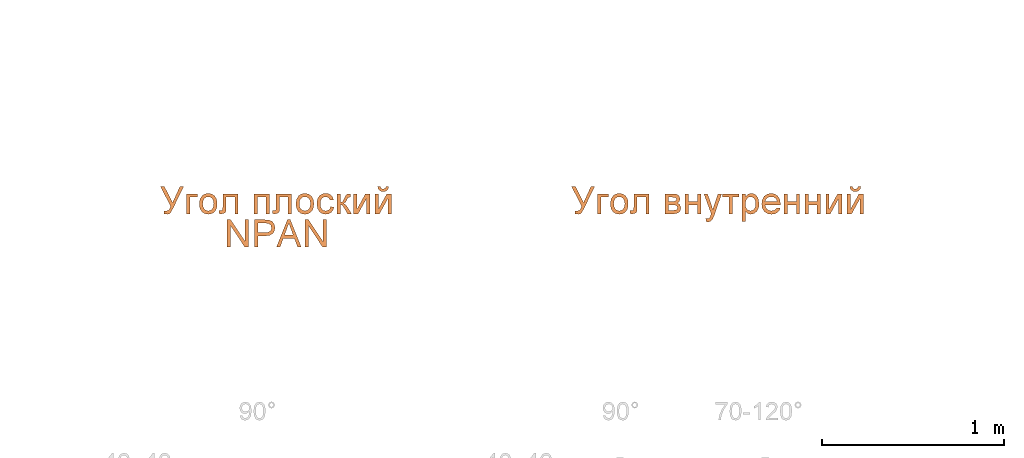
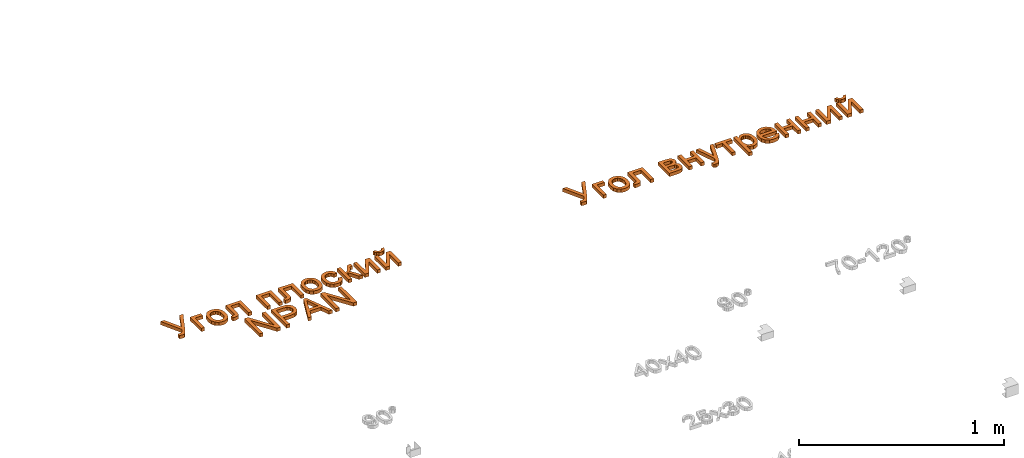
# One storey, part 29 of 71: 2 proxies.
"""IFC2X3 building model written with IfcOpenShell, lengths in millimetres."""

from ifc_helpers import new_model, entity, si_unit, converted_unit, derived_unit, direction, frame, origin, place, context, subcontext, project, spatial, polyline, outline, extrude, element, save


model = new_model("IFC2X3")

# Units and contexts
model_context = context("Model", 3, precision=0.01, world=origin(), true_north=direction((6.12303176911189e-17, 1.0)))
body_context = subcontext(model_context, "Body", "Model", "MODEL_VIEW")
ifc_project = project(units=[si_unit("LENGTHUNIT", "METRE", prefix="MILLI"), si_unit("AREAUNIT", "SQUARE_METRE"), si_unit("VOLUMEUNIT", "CUBIC_METRE"), converted_unit("PLANEANGLEUNIT", "DEGREE", entity("IfcRatioMeasure", 0.0174532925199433), si_unit("PLANEANGLEUNIT", "RADIAN"), dimensions=[0, 0, 0, 0, 0, 0, 0]), si_unit("MASSUNIT", "GRAM", prefix="KILO"), derived_unit("MASSDENSITYUNIT", [(si_unit("MASSUNIT", "GRAM", prefix="KILO"), 1), (si_unit("LENGTHUNIT", "METRE"), -3)]), si_unit("TIMEUNIT", "SECOND"), si_unit("FREQUENCYUNIT", "HERTZ"), si_unit("THERMODYNAMICTEMPERATUREUNIT", "DEGREE_CELSIUS"), derived_unit("THERMALTRANSMITTANCEUNIT", [(si_unit("MASSUNIT", "GRAM", prefix="KILO"), 1), (si_unit("THERMODYNAMICTEMPERATUREUNIT", "KELVIN"), -1), (si_unit("TIMEUNIT", "SECOND"), -3)]), derived_unit("VOLUMETRICFLOWRATEUNIT", [(si_unit("LENGTHUNIT", "METRE"), 3), (si_unit("TIMEUNIT", "SECOND"), -1)]), si_unit("ELECTRICCURRENTUNIT", "AMPERE"), si_unit("ELECTRICVOLTAGEUNIT", "VOLT"), si_unit("POWERUNIT", "WATT"), si_unit("FORCEUNIT", "NEWTON", prefix="KILO"), si_unit("ILLUMINANCEUNIT", "LUX"), si_unit("LUMINOUSFLUXUNIT", "LUMEN"), si_unit("LUMINOUSINTENSITYUNIT", "CANDELA"), derived_unit("USERDEFINED", [(si_unit("MASSUNIT", "GRAM", prefix="KILO"), -1), (si_unit("LENGTHUNIT", "METRE"), -2), (si_unit("TIMEUNIT", "SECOND"), 3), (si_unit("LUMINOUSFLUXUNIT", "LUMEN"), 1)]), derived_unit("LINEARVELOCITYUNIT", [(si_unit("LENGTHUNIT", "METRE"), 1), (si_unit("TIMEUNIT", "SECOND"), -1)]), si_unit("PRESSUREUNIT", "PASCAL"), derived_unit("USERDEFINED", [(si_unit("LENGTHUNIT", "METRE"), -2), (si_unit("MASSUNIT", "GRAM", prefix="KILO"), 1), (si_unit("TIMEUNIT", "SECOND"), -2)])], contexts=[model_context])

# Site, building, storey
site_placement = place(None, origin())
site = spatial("IfcSite", under=ifc_project, at=site_placement, Name="Default", CompositionType="ELEMENT")
building_placement = place(site_placement, origin())
building = spatial("IfcBuilding", under=site, at=building_placement, Name="Наименование здания", CompositionType="ELEMENT")
storey_placement = place(building_placement, origin())
storey = spatial("IfcBuildingStorey", under=building, at=storey_placement, Name="Этаж 01", CompositionType="ELEMENT", Elevation=0.0)

# Proxies
proxy_1_placement = place(storey_placement, origin())
element("IfcBuildingElementProxy", 1, at=proxy_1_placement, inside=storey, Name="Текст модели:150 мм Arial", ObjectType="Текст модели:150 мм Arial", context=body_context, shape_type="SweptSolid", body=[
    extrude(outline(polyline([(-106.701123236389, 2.54904117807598), (-97.296241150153, -16.0692907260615), (2.68445330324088, -16.0537927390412), (-58.6980742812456, -92.4799756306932), (-49.3761276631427, -110.934124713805), (29.6124181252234, -6.94385161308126), (48.3399438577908, 19.9502964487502), (49.5661580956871, 28.8436959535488), (46.5690129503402, 38.5506036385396), (36.8208226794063, 52.6266857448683), (22.1100419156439, 45.1956678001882), (28.7946406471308, 31.9625324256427), (30.0108133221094, 20.2534710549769), (17.5632614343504, 2.54904117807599), (-106.701123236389, 2.54904117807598)])), frame((13320.9251481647, 4510.19222980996, 0.0), z_axis=(0.0, 0.0, -1.0), x_axis=(0.450880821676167, -0.892584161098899, 0.0)), (0.0, 0.0, -1.0), 20.0),
    extrude(outline(polyline([(-43.1648207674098, -26.6837073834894), (67.4940833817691, -26.6837073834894), (67.4940833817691, -7.84814923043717), (-24.3292626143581, -7.84814923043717), (-24.3292626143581, 34.5318566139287), (-43.1648207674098, 34.5318566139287), (-43.1648207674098, -26.6837073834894)])), frame((13439.6680401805, 4521.09226675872, 0.0), z_axis=(0.0, 0.0, 1.0), x_axis=(0.0, -1.0, 0.0)), (0.0, 0.0, 1.0), 20.0),
    extrude(outline(polyline([(-11.1946000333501, -52.242644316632), (13.7256178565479, -52.242644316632), (33.0962748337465, -44.5759588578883), (46.3022849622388, -30.4665992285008), (52.7285623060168, -11.1385767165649), (52.8795704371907, 2.26160042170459), (49.5396030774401, 15.0586597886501), (42.9102470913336, 26.361219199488), (33.1930893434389, 35.2778964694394), (19.472491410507, 41.8007990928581), (0.83281486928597, 45.9220345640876), (-22.8762356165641, 45.7172545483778), (-41.8930612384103, 37.8901775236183), (-55.142589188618, 23.7682718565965), (-61.5497466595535, 4.67900591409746), (-60.9951142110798, -13.6515433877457), (-53.9645370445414, -29.8701936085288), (-37.0646721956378, -44.5487589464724), (-11.1946000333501, -52.242644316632)]), holes=[polyline([(-8.64857835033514, -33.5799173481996), (-25.22636855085, -29.0848574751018), (-36.3325046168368, -20.946182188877), (-42.1575488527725, -10.2052592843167), (-42.8920635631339, 2.09654344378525), (-38.8516378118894, 13.6120893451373), (-30.3014219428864, 22.3586496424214), (-17.5331679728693, 27.234584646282), (-0.838627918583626, 27.1382546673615), (16.1172354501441, 22.5908646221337), (27.4101305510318, 14.4263394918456), (33.3060231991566, 3.69417972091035), (34.0708792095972, -8.55611424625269), (30.0134303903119, -20.1946478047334), (21.4625840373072, -28.9457632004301), (8.53602088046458, -33.7580048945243), (-8.64857835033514, -33.5799173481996)])]), frame((13536.9018062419, 4505.00151704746, 0.0), z_axis=(0.0, 0.0, 1.0), x_axis=(0.137105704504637, -0.990556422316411, 0.0)), (0.0, 0.0, 1.0), 20.0),
    extrude(outline(polyline([(-74.0534959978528, 18.817164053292), (-74.0534959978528, -65.942847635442), (36.495043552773, -65.942847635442), (36.495043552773, -47.1072894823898), (-55.2179378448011, -47.1072894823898), (-55.2179378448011, -0.0183940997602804), (-2.42687153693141, -0.0183940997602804), (21.9269165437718, 1.25079878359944), (32.2092183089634, 8.22216259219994), (36.6054081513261, 24.7032759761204), (35.6489149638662, 40.0071669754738), (17.7698499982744, 40.0071669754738), (17.7698499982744, 31.582669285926), (16.6110217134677, 23.0662010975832), (12.9322017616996, 19.6632926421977), (-3.49372932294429, 18.817164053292), (-74.0534959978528, 18.817164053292)])), frame((13631.9293022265, 4490.20359152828, 0.0), z_axis=(0.0, 0.0, -1.0), x_axis=(0.0, -1.0, 0.0)), (0.0, 0.0, -1.0), 20.0),
    extrude(outline(polyline([(-60.0383416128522, -42.3800058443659), (50.6205625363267, -42.3800058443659), (50.6205625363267, -23.5444476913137), (-41.2027834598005, -23.5444476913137), (-41.2027834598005, 23.5444476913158), (50.6205625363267, 23.5444476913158), (50.6205625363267, 42.3800058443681), (-60.0383416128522, 42.3800058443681), (-60.0383416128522, -42.3800058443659)])), frame((13827.3666121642, 4504.21874591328, 0.0), z_axis=(0.0, 0.0, 1.0), x_axis=(0.0, -1.0, 0.0)), (0.0, 0.0, 1.0), 20.0),
    extrude(outline(polyline([(-74.0534959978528, 18.8171640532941), (-74.0534959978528, -65.9428476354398), (36.495043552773, -65.9428476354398), (36.495043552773, -47.1072894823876), (-55.2179378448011, -47.1072894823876), (-55.2179378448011, -0.0183940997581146), (-2.42687153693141, -0.0183940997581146), (21.9269165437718, 1.25079878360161), (32.2092183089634, 8.2221625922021), (36.6054081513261, 24.7032759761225), (35.6489149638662, 40.007166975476), (17.7698499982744, 40.007166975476), (17.7698499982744, 31.5826692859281), (16.6110217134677, 23.0662010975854), (12.9322017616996, 19.6632926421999), (-3.49372932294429, 18.8171640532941), (-74.0534959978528, 18.8171640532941)])), frame((13926.234898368, 4490.20359152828, 0.0), z_axis=(0.0, 0.0, -1.0), x_axis=(0.0, -1.0, 0.0)), (0.0, 0.0, -1.0), 20.0),
    extrude(outline(polyline([(-11.1946000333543, -52.2426443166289), (13.725617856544, -52.2426443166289), (33.096274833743, -44.575958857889), (46.3022849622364, -30.4665992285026), (52.7285623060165, -11.1385767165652), (52.8795704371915, 2.26160042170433), (49.5396030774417, 15.058659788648), (42.9102470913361, 26.3612191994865), (33.1930893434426, 35.2778964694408), (19.4724914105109, 41.8007990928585), (0.832814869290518, 45.9220345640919), (-22.8762356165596, 45.7172545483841), (-41.8930612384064, 37.8901775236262), (-55.1425891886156, 23.7682718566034), (-61.5497466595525, 4.67900591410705), (-60.9951142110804, -13.6515433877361), (-53.9645370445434, -29.8701936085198), (-37.0646721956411, -44.5487589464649), (-11.1946000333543, -52.2426443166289)]), holes=[polyline([(-8.64857835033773, -33.5799173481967), (-25.2263685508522, -29.0848574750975), (-36.3325046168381, -20.9461821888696), (-42.1575488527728, -10.2052592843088), (-42.8920635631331, 2.09654344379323), (-38.851637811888, 13.6120893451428), (-30.3014219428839, 22.3586496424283), (-17.5331679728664, 27.2345846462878), (-0.838627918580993, 27.1382546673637), (16.1172354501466, 22.5908646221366), (27.4101305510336, 14.4263394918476), (33.3060231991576, 3.69417972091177), (34.0708792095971, -8.55611424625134), (30.0134303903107, -20.1946478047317), (21.4625840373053, -28.9457632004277), (8.53602088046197, -33.7580048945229), (-8.64857835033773, -33.5799173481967)])]), frame((14069.0063240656, 4505.00151704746, 0.0), z_axis=(0.0, 0.0, 1.0), x_axis=(0.137105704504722, -0.990556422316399, 0.0)), (0.0, 0.0, 1.0), 20.0),
    extrude(outline(polyline([(6.7721843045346, -32.6880162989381), (3.47919135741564, -51.3823432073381), (21.0352248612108, -51.2935104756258), (36.0385414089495, -45.5877688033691), (47.6356474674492, -34.9742466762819), (54.9730495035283, -20.1620725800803), (57.3315572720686, 0.0758389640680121), (51.3286597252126, 18.3174486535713), (37.081059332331, 33.285426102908), (14.7054585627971, 43.7024409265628), (-1.7374678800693, 47.2596707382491), (-16.8916566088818, 47.4079950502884), (-30.2412319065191, 43.9163864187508), (-41.2703180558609, 36.5538173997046), (-49.6896409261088, 26.2753303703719), (-55.2099263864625, 14.0359677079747), (-57.6963038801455, -1.85137033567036), (-54.8486013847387, -16.0419747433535), (-46.8993177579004, -28.0408309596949), (-34.0809518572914, -37.3529244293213), (-26.2876013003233, -20.0443904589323), (-37.1997991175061, -7.54215198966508), (-37.2518019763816, 8.35215978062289), (-31.4457718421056, 19.3006318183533), (-21.9310317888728, 26.4799459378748), (-8.59621128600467, 28.9704724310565), (8.67006019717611, 25.8525815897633), (24.9370752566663, 18.6926998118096), (34.6412636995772, 9.25213062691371), (38.4812527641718, -1.85665774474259), (37.1556696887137, -14.0211970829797), (32.9052994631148, -22.9177981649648), (26.4119100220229, -29.28567407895), (17.6945290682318, -32.6880162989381), (6.7721843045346, -32.6880162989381)])), frame((14177.1847898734, 4509.71587672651, 0.0), z_axis=(0.0, 0.0, -1.0), x_axis=(-0.294292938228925, -0.955715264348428, 0.0)), (0.0, 0.0, -1.0), 20.0),
    extrude(outline(polyline([(-45.4943568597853, -44.3029556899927), (65.1645472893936, -44.3029556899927), (65.1645472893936, -25.4673975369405), (13.3667623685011, -25.4673975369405), (16.8432472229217, -15.3506426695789), (31.2090391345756, -5.41782879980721), (65.1645472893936, 14.3374343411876), (65.1645472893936, 35.7481664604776), (30.4732751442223, 15.5882331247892), (15.0314283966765, 3.9263738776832), (7.70137964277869, -7.95621456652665), (1.13468602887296, 2.69396919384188), (-12.2746126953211, 10.2907323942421), (-24.6722359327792, 16.765455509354), (-26.6587987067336, 25.962505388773), (-26.5484341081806, 31.0392769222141), (-45.4943568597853, 31.0392769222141), (-45.4943568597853, 27.4340333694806), (-44.059617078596, 13.6568526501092), (-38.5229930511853, 6.07848354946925), (-21.5084507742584, -2.51156103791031), (-1.78997583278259, -12.8490451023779), (1.59453852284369, -25.4673975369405), (-45.4943568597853, -25.4673975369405), (-45.4943568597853, -44.3029556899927)])), frame((14286.0518472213, 4518.76273066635, 0.0), z_axis=(0.0, 0.0, 1.0), x_axis=(0.0, -1.0, 0.0)), (0.0, 0.0, 1.0), 20.0),
    extrude(outline(polyline([(-55.3809555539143, -44.7638811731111), (55.2779485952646, -44.7638811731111), (55.2779485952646, -20.1157874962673), (-28.5991463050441, 25.8694619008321), (55.2779485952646, 25.8694619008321), (55.2779485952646, 44.7050200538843), (-55.3809555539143, 44.7050200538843), (-55.3809555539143, 20.3512319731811), (29.0111741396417, -25.9283230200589), (-55.3809555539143, -25.9283230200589), (-55.3809555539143, -44.7638811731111)])), frame((14378.3361187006, 4508.87613197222, 0.0), z_axis=(0.0, 0.0, 1.0), x_axis=(0.0, -1.0, 0.0)), (0.0, 0.0, 1.0), 20.0),
    extrude(outline(polyline([(-18.9086812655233, -8.80638330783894), (-25.1654169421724, -21.4719280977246), (-13.0047964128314, -24.0889504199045), (-2.33253524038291, -22.5548007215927), (6.5147739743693, -17.0109446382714), (13.200538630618, -7.59884780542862), (17.0548336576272, 4.29420862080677), (16.4301190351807, 15.3019521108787), (11.3772556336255, 25.1120324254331), (1.94710432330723, 33.4120993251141), (-4.30963135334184, 20.7465545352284), (2.85974295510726, 11.2962766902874), (1.2844986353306, 0.175114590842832), (-6.94780563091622, -8.80638330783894), (-18.9086812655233, -8.80638330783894)])), frame((14496.2398018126, 4591.23006402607, 0.0), z_axis=(0.0, 0.0, -1.0), x_axis=(-0.442902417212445, -0.896569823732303, 0.0)), (0.0, 0.0, -1.0), 20.0),
    extrude(outline(polyline([(-55.3809555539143, -44.7638811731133), (55.2779485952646, -44.7638811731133), (55.2779485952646, -20.1157874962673), (-28.5991463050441, 25.8694619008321), (55.2779485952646, 25.8694619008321), (55.2779485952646, 44.7050200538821), (-55.3809555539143, 44.7050200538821), (-55.3809555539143, 20.3512319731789), (29.0111741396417, -25.9283230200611), (-55.3809555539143, -25.9283230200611), (-55.3809555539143, -44.7638811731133)])), frame((14496.0583571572, 4508.87613197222, 0.0), z_axis=(0.0, 0.0, 1.0), x_axis=(0.0, -1.0, 0.0)), (0.0, 0.0, 1.0), 20.0),
    extrude(outline(polyline([(-58.8611192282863, -75.3459114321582), (-40.0255610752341, -75.3459114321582), (-40.0255610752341, 44.0685842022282), (38.7011858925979, -75.3459114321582), (58.8611192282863, -75.3459114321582), (58.8611192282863, 75.3385537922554), (40.0255610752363, 75.3385537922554), (40.0255610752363, -44.0391536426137), (-38.7011858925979, 75.3385537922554), (-58.8611192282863, 75.3385537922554), (-58.8611192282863, -75.3459114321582)])), frame((13695.5177050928, 4345.98186804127, 0.0)), (0.0, 0.0, 1.0), 20.0),
    extrude(outline(polyline([(-64.7670401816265, -90.6454161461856), (-45.9314820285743, -90.6454161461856), (-45.9314820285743, -29.4298521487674), (-7.63496633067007, -29.4298521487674), (19.1238502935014, -26.1005200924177), (36.1245969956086, -16.1125239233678), (45.2158808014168, -1.31447066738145), (48.2463087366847, 16.4450326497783), (43.7581483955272, 36.9912420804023), (31.8939540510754, 51.559369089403), (13.5918247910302, 58.6043092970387), (-8.92255331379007, 60.039049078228), (-64.7670401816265, 60.039049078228), (-64.7670401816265, -90.6454161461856)]), holes=[polyline([(-45.9314820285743, -10.5942939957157), (-45.9314820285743, 41.2034909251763), (-6.97277873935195, 41.2034909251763), (11.8627794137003, 39.9159039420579), (24.5731023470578, 31.3810416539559), (29.4107505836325, 15.7828450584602), (27.3598084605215, 4.64521765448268), (21.2069820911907, -3.6781124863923), (10.1705222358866, -8.86524861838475), (-6.53132034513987, -10.5942939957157), (-45.9314820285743, -10.5942939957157)])]), frame((13852.1080912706, 4361.2813727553, 0.0)), (0.0, 0.0, 1.0), 20.0),
    extrude(outline(polyline([(-68.1639351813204, -49.4433401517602), (-48.2615192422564, -49.4433401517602), (-31.0446418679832, -2.35444476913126), (31.0170507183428, -2.35444476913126), (48.2707162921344, -49.4433401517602), (68.1731322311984, -49.4433401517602), (8.02442601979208, 101.241125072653), (-8.01522896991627, 101.241125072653), (-68.1639351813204, -49.4433401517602)]), holes=[polyline([(-24.1284603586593, 16.4811133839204), (-9.37639235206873, 56.7641918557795), (0.00459852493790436, 82.4055669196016), (10.5628117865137, 53.5268302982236), (24.1376574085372, 16.4811133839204), (-24.1284603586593, 16.4811133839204)])]), frame((13976.8692564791, 4320.07929676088, 0.0)), (0.0, 0.0, 1.0), 20.0),
    extrude(outline(polyline([(-58.8611192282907, -75.3459114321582), (-40.0255610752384, -75.3459114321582), (-40.0255610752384, 44.0685842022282), (38.7011858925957, -75.3459114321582), (58.8611192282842, -75.3459114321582), (58.8611192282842, 75.3385537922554), (40.0255610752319, 75.3385537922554), (40.0255610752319, -44.0391536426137), (-38.7011858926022, 75.3385537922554), (-58.8611192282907, 75.3385537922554), (-58.8611192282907, -75.3459114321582)])), frame((14124.0266530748, 4345.98186804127, 0.0)), (0.0, 0.0, 1.0), 20.0),
])
proxy_2_placement = place(storey_placement, origin())
element("IfcBuildingElementProxy", 2, at=proxy_2_placement, inside=storey, Name="Текст модели:150 мм Arial", ObjectType="Текст модели:150 мм Arial", context=body_context, shape_type="SweptSolid", body=[
    extrude(outline(polyline([(-106.70112323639, 2.54904117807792), (-97.2962411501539, -16.0692907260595), (2.6844533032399, -16.0537927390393), (-58.6980742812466, -92.4799756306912), (-49.3761276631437, -110.934124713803), (29.6124181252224, -6.94385161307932), (48.3399438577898, 19.9502964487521), (49.5661580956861, 28.8436959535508), (46.5690129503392, 38.5506036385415), (36.8208226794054, 52.6266857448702), (22.1100419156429, 45.1956678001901), (28.7946406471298, 31.9625324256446), (30.0108133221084, 20.2534710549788), (17.5632614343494, 2.54904117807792), (-106.70112323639, 2.54904117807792)])), frame((15584.0652375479, 4510.19222980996, 0.0), z_axis=(0.0, 0.0, -1.0), x_axis=(0.450880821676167, -0.892584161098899, 0.0)), (0.0, 0.0, -1.0), 20.0),
    extrude(outline(polyline([(-43.1648207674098, -26.6837073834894), (67.4940833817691, -26.6837073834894), (67.4940833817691, -7.84814923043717), (-24.3292626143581, -7.84814923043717), (-24.3292626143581, 34.5318566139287), (-43.1648207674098, 34.5318566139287), (-43.1648207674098, -26.6837073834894)])), frame((15702.8081295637, 4521.09226675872, 0.0), z_axis=(0.0, 0.0, 1.0), x_axis=(0.0, -1.0, 0.0)), (0.0, 0.0, 1.0), 20.0),
    extrude(outline(polyline([(-11.1946000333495, -52.2426443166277), (13.7256178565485, -52.2426443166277), (33.0962748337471, -44.575958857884), (46.3022849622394, -30.4665992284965), (52.7285623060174, -11.1385767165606), (52.8795704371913, 2.26160042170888), (49.5396030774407, 15.0586597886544), (42.9102470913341, 26.3612191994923), (33.1930893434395, 35.2778964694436), (19.4724914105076, 41.8007990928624), (0.832814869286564, 45.9220345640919), (-22.8762356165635, 45.7172545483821), (-41.8930612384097, 37.8901775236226), (-55.1425891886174, 23.7682718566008), (-61.5497466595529, 4.67900591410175), (-60.9951142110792, -13.6515433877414), (-53.9645370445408, -29.8701936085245), (-37.0646721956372, -44.5487589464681), (-11.1946000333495, -52.2426443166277)]), holes=[polyline([(-8.64857835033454, -33.5799173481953), (-25.2263685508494, -29.0848574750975), (-36.3325046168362, -20.9461821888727), (-42.1575488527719, -10.2052592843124), (-42.8920635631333, 2.09654344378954), (-38.8516378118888, 13.6120893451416), (-30.3014219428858, 22.3586496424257), (-17.5331679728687, 27.2345846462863), (-0.838627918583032, 27.1382546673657), (16.1172354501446, 22.590864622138), (27.4101305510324, 14.4263394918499), (33.3060231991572, 3.69417972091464), (34.0708792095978, -8.5561142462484), (30.0134303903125, -20.1946478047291), (21.4625840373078, -28.9457632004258), (8.53602088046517, -33.75800489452), (-8.64857835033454, -33.5799173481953)])]), frame((15800.041895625, 4505.00151704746, 0.0), z_axis=(0.0, 0.0, 1.0), x_axis=(0.137105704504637, -0.990556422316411, 0.0)), (0.0, 0.0, 1.0), 20.0),
    extrude(outline(polyline([(-74.0534959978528, 18.8171640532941), (-74.0534959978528, -65.9428476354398), (36.495043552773, -65.9428476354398), (36.495043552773, -47.1072894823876), (-55.2179378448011, -47.1072894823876), (-55.2179378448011, -0.0183940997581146), (-2.42687153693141, -0.0183940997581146), (21.9269165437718, 1.25079878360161), (32.2092183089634, 8.2221625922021), (36.6054081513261, 24.7032759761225), (35.6489149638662, 40.007166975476), (17.7698499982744, 40.007166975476), (17.7698499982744, 31.5826692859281), (16.6110217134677, 23.0662010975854), (12.9322017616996, 19.6632926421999), (-3.49372932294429, 18.8171640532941), (-74.0534959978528, 18.8171640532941)])), frame((15895.0693916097, 4490.20359152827, 0.0), z_axis=(0.0, 0.0, -1.0), x_axis=(0.0, -1.0, 0.0)), (0.0, 0.0, -1.0), 20.0),
    extrude(outline(polyline([(-56.9428773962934, -61.1019147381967), (53.7160267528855, -61.1019147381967), (53.7160267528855, -13.2404671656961), (51.7202669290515, 3.22225211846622), (45.7329874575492, 15.2335992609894), (35.6254296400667, 22.8211654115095), (21.2688347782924, 26.012541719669), (3.51852851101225, 20.9725583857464), (-6.69019685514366, 8.31741775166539), (-16.0160054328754, 18.0662906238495), (-29.0942103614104, 21.3036521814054), (-45.1890476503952, 15.950969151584), (-54.4228857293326, 3.1486757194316), (-56.9428773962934, -19.6048256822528), (-56.9428773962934, -61.1019147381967)]), holes=[polyline([(-14.562871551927, -42.2663565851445), (-38.1073192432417, -42.2663565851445), (-38.1073192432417, -23.0629164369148), (-35.4953570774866, -3.30765329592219), (-31.8809164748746, 1.02415719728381), (-26.2615189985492, 2.4680940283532), (-19.3453374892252, -0.82444982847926), (-15.5193647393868, -8.29245433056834), (-14.562871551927, -23.6515276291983), (-14.562871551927, -42.2663565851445)]), polyline([(34.8804685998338, -42.2663565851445), (4.27268660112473, -42.2663565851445), (4.27268660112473, -21.0027772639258), (5.37633258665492, -4.4296933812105), (10.6554392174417, 3.95801610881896), (19.7237303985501, 7.1769835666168), (26.8376484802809, 5.56749983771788), (31.4775601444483, 1.32765984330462), (34.8804685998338, -19.1633672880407), (34.8804685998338, -42.2663565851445)])]), frame((16109.2286104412, 4507.31421012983, 0.0), z_axis=(0.0, 0.0, 1.0), x_axis=(0.0, -1.0, 0.0)), (0.0, 0.0, 1.0), 20.0),
    extrude(outline(polyline([(-54.1522296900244, -43.5572282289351), (56.5066744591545, -43.5572282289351), (56.5066744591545, -24.7216700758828), (7.06333430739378, -24.7216700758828), (7.06333430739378, 24.7216700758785), (56.5066744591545, 24.7216700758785), (56.5066744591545, 43.5572282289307), (-54.1522296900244, 43.5572282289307), (-54.1522296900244, 24.7216700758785), (-11.7722238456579, 24.7216700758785), (-11.7722238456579, -24.7216700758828), (-54.1522296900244, -24.7216700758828), (-54.1522296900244, -43.5572282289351)])), frame((16202.3428280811, 4510.1048578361, 0.0), z_axis=(0.0, 0.0, 1.0), x_axis=(0.0, -1.0, 0.0)), (0.0, 0.0, 1.0), 20.0),
    extrude(outline(polyline([(-14.0627784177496, -63.6897846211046), (-2.30982667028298, -63.6897846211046), (11.2235996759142, -56.6043892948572), (19.2677475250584, -41.4042581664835), (24.1483344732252, -15.323333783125), (39.1861017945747, 103.40353040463), (19.8673420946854, 99.4533686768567), (11.3764058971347, 32.0809099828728), (8.47999679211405, 9.33454668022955), (-3.68750084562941, 31.9296007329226), (-36.7914083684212, 87.8681928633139), (-56.2543379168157, 83.8885523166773), (5.04686591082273, -16.1124679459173), (4.51901081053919, -20.8765214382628), (2.25144479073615, -35.4962883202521), (-1.95815357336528, -42.2710621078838), (-10.3000835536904, -46.0982994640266), (-20.0027604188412, -46.3925118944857), (-14.0627784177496, -63.6897846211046)])), frame((16300.689948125, 4470.79973233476, 0.0), z_axis=(0.0, 0.0, 1.0), x_axis=(0.979728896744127, -0.200327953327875, 0.0)), (0.0, 0.0, 1.0), 20.0),
    extrude(outline(polyline([(-37.0825051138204, -44.7344506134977), (-18.2469469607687, -44.7344506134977), (-18.2469469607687, -9.41777907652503), (73.5763990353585, -9.41777907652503), (73.5763990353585, 9.41777907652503), (-18.2469469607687, 9.41777907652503), (-18.2469469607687, 44.7344506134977), (-37.0825051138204, 44.7344506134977), (-37.0825051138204, -44.7344506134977)])), frame((16410.7111901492, 4527.17458241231, 0.0), z_axis=(0.0, 0.0, 1.0), x_axis=(0.0, -1.0, 0.0)), (0.0, 0.0, 1.0), 20.0),
    extrude(outline(polyline([(-51.3898957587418, -92.5503727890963), (-32.5543376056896, -92.5503727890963), (-32.5543376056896, -35.4550871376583), (-20.6165668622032, -47.6871634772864), (-4.22742397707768, -52.5248117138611), (7.98165973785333, -50.7175914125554), (19.5929352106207, -45.2959305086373), (29.5625372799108, -36.4851567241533), (36.8466007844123, -24.5105977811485), (41.3025714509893, -10.1034191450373), (42.7878950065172, 6.00521371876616), (37.5271824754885, 35.0311031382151), (30.9972770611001, 46.7849328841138), (21.9289858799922, 55.5589184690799), (10.7913584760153, 61.0219660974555), (-1.9465556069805, 62.8429819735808), (-19.5313149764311, 57.6374517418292), (-32.5543376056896, 42.0208610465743), (-32.5543376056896, 60.488537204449), (-51.3898957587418, 60.488537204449), (-51.3898957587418, -92.5503727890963)]), holes=[polyline([(-32.5543376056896, 4.27616834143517), (-30.3792353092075, 21.3596884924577), (-23.8539284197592, 33.8354866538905), (-14.5051272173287, 41.4644395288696), (-3.85954198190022, 44.0074238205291), (6.74465652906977, 41.61619085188), (15.7485683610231, 34.4424919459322), (21.901394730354, 22.4679330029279), (23.952336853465, 5.6741199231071), (21.8508109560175, -11.8462600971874), (15.5462332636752, -24.0875334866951), (6.29859960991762, -31.2888235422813), (-4.63209417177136, -33.6892535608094), (-15.3880440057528, -31.371596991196), (-24.4057514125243, -24.4186272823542), (-30.5171910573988, -12.6096152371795), (-32.5543376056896, 4.27616834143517)])]), frame((16523.3166499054, 4503.76855032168, 0.0)), (0.0, 0.0, 1.0), 20.0),
    extrude(outline(polyline([(-12.1519235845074, -30.5627594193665), (-23.3028322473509, -45.471002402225), (-8.67600558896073, -50.3662606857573), (6.18277634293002, -49.9698260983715), (20.8164252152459, -44.1721168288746), (34.7678526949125, -32.8635510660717), (47.4570640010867, -14.3885693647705), (51.243072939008, 5.61202992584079), (45.9060763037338, 25.8663302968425), (31.2262708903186, 45.1024152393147), (10.9154740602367, 59.6770093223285), (-9.99269287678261, 64.6676720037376), (-29.9463894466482, 60.6331852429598), (-47.3937751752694, 48.1323309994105), (-58.8653278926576, 30.7635073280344), (-61.966024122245, 11.0147969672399), (-56.1560561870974, -9.52443743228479), (-40.8956164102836, -29.2648332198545), (-37.1706876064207, -32.7160206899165), (21.6964908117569, 28.1133970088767), (29.5607979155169, 15.9656989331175), (31.7422008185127, 3.31507577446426), (28.7208128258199, -8.97205129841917), (20.9767472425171, -20.0292611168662), (5.30526907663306, -30.5627594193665), (-12.1519235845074, -30.5627594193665)]), holes=[polyline([(8.16121838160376, 41.2120477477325), (-37.6840592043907, -6.16140575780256), (-43.0633748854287, 2.58957596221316), (-44.7058228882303, 11.1286426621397), (-41.8277013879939, 23.6248066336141), (-33.8073361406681, 35.0865524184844), (-23.7122716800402, 42.9855035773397), (-12.6145549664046, 46.855297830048), (-1.62109020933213, 46.3720932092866), (8.16121838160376, 41.2120477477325)])]), frame((16634.3573235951, 4499.08200961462, 0.0), z_axis=(0.0, 0.0, -1.0), x_axis=(-0.695421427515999, -0.718602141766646, 0.0)), (0.0, 0.0, -1.0), 20.0),
    extrude(outline(polyline([(-54.1522296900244, -43.5572282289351), (56.5066744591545, -43.5572282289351), (56.5066744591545, -24.7216700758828), (7.06333430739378, -24.7216700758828), (7.06333430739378, 24.7216700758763), (56.5066744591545, 24.7216700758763), (56.5066744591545, 43.5572282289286), (-54.1522296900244, 43.5572282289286), (-54.1522296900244, 24.7216700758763), (-11.7722238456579, 24.7216700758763), (-11.7722238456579, -24.7216700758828), (-54.1522296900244, -24.7216700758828), (-54.1522296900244, -43.5572282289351)])), frame((16746.2195697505, 4510.1048578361, 0.0), z_axis=(0.0, 0.0, 1.0), x_axis=(0.0, -1.0, 0.0)), (0.0, 0.0, 1.0), 20.0),
    extrude(outline(polyline([(-54.1522296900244, -43.5572282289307), (56.5066744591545, -43.5572282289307), (56.5066744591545, -24.7216700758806), (7.06333430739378, -24.7216700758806), (7.06333430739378, 24.7216700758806), (56.5066744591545, 24.7216700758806), (56.5066744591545, 43.5572282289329), (-54.1522296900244, 43.5572282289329), (-54.1522296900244, 24.7216700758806), (-11.7722238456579, 24.7216700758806), (-11.7722238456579, -24.7216700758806), (-54.1522296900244, -24.7216700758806), (-54.1522296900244, -43.5572282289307)])), frame((16861.5873634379, 4510.1048578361, 0.0), z_axis=(0.0, 0.0, 1.0), x_axis=(0.0, -1.0, 0.0)), (0.0, 0.0, 1.0), 20.0),
    extrude(outline(polyline([(-55.3809555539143, -44.7638811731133), (55.2779485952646, -44.7638811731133), (55.2779485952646, -20.1157874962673), (-28.5991463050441, 25.8694619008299), (55.2779485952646, 25.8694619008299), (55.2779485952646, 44.7050200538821), (-55.3809555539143, 44.7050200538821), (-55.3809555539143, 20.3512319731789), (29.0111741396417, -25.9283230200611), (-55.3809555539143, -25.9283230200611), (-55.3809555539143, -44.7638811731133)])), frame((16978.1618100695, 4508.87613197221, 0.0), z_axis=(0.0, 0.0, 1.0), x_axis=(0.0, -1.0, 0.0)), (0.0, 0.0, 1.0), 20.0),
    extrude(outline(polyline([(-18.9086812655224, -8.806383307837), (-25.1654169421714, -21.4719280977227), (-13.0047964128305, -24.0889504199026), (-2.33253524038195, -22.5548007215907), (6.51477397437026, -17.0109446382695), (13.200538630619, -7.59884780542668), (17.0548336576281, 4.29420862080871), (16.4301190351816, 15.3019521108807), (11.3772556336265, 25.112032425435), (1.94710432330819, 33.412099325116), (-4.30963135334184, 20.7465545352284), (2.85974295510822, 11.2962766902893), (1.28449863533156, 0.175114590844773), (-6.94780563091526, -8.806383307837), (-18.9086812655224, -8.806383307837)])), frame((17096.0654931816, 4591.23006402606, 0.0), z_axis=(0.0, 0.0, -1.0), x_axis=(-0.442902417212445, -0.896569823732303, 0.0)), (0.0, 0.0, -1.0), 20.0),
    extrude(outline(polyline([(-55.3809555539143, -44.7638811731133), (55.2779485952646, -44.7638811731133), (55.2779485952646, -20.1157874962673), (-28.5991463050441, 25.8694619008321), (55.2779485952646, 25.8694619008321), (55.2779485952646, 44.7050200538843), (-55.3809555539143, 44.7050200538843), (-55.3809555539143, 20.3512319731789), (29.0111741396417, -25.9283230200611), (-55.3809555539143, -25.9283230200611), (-55.3809555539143, -44.7638811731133)])), frame((17095.8840485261, 4508.87613197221, 0.0), z_axis=(0.0, 0.0, 1.0), x_axis=(0.0, -1.0, 0.0)), (0.0, 0.0, 1.0), 20.0),
])

save(model, "model.ifc")
